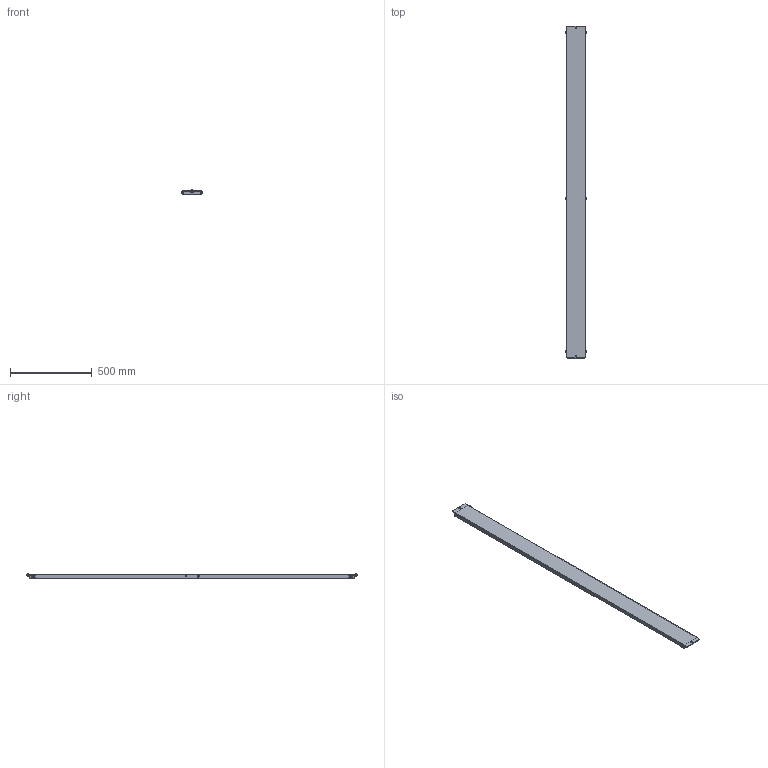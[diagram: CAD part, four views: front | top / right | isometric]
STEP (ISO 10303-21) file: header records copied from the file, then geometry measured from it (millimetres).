
FILE_DESCRIPTION(('Open CASCADE Model'),'2;1');
FILE_NAME('Open CASCADE Shape Model','2025-02-13T17:15:41',('Author'),( 'Open CASCADE'),'Open CASCADE STEP processor 7.8','Open CASCADE 7.8' ,'Unknown');
FILE_SCHEMA(('AUTOMOTIVE_DESIGN { 1 0 10303 214 1 1 1 1 }'));
Length unit declared in the file: millimetre
Products named in the file (7): Compound1; Solid1; Solid2; Solid3; Solid4; Solid5; Solid6
Assembly tree (19 placements, depth 2):
  Compound1
    Solid1
    Solid2  x2
    Solid3  x6
    Solid4  x2
    Solid5  x6
    Solid6  x2
Bounding box: 132 x 2025 x 28.9 mm (x, y, z)
Volume: 816230.2 mm3; surface area: 669836.4 mm2
Topology: 19 solids, 19 shells, 1008 faces, 2765 edges, 1793 vertices
Faces by surface type: plane 550, cylinder 312, cone 80, bspline 48, torus 16, sphere 2
Full cylindrical faces by diameter (mm): 4.917 x6, 5 x2, 6 x10, 6.6 x6, 7 x4, 8 x6, 11 x2
Entity records: 8694 total; most frequent: CARTESIAN_POINT 2254, ORIENTED_EDGE 1378, DIRECTION 1236, EDGE_CURVE 689, VERTEX_POINT 448, AXIS2_PLACEMENT_3D 424, LINE 388, VECTOR 388
